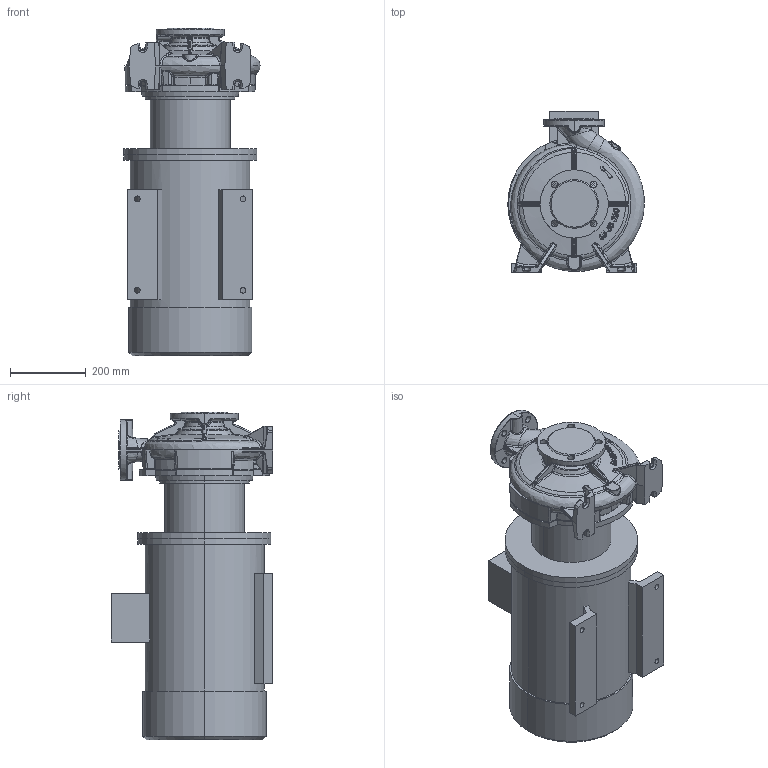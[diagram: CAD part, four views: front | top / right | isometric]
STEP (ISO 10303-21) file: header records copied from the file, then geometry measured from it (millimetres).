
FILE_DESCRIPTION (( 'STEP AP214' ), '1' );
FILE_NAME ('KRM 65-50-250-2-22.STEP', '2026-04-24T13:33:04', ( '' ), ( '' ), 'SwSTEP 2.0', 'SolidWorks 2016', '' );
FILE_SCHEMA (( 'AUTOMOTIVE_DESIGN' ));
Length unit declared in the file: millimetre
Products named in the file (1): KRM 65-50-250-2-22
Bounding box: 359.64 x 425 x 864 mm (x, y, z)
Volume: 64577292.5 mm3; surface area: 1981537.9 mm2
Topology: 4 solids, 4 shells, 1169 faces, 2832 edges, 1679 vertices
Faces by surface type: bspline 550, cylinder 224, plane 212, torus 83, cone 83, sphere 17
Entity records: 85891 total; most frequent: CARTESIAN_POINT 50334, ORIENTED_EDGE 5610, DIRECTION 3540, EDGE_CURVE 2805, VERTEX_POINT 1679, AXIS2_PLACEMENT_3D 1465, EDGE_LOOP 1228, UNCERTAINTY_MEASURE_WITH_UNIT 1175
